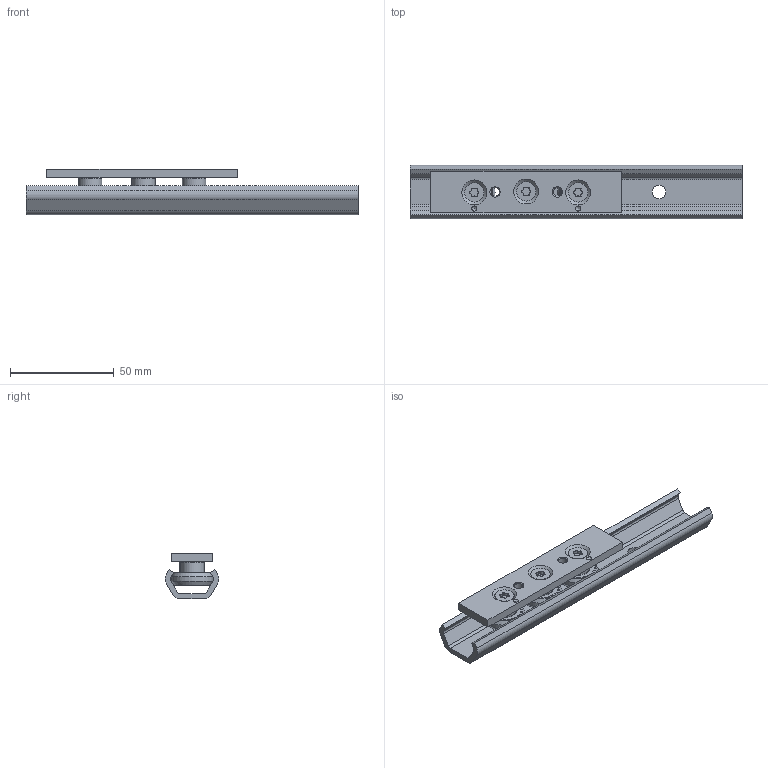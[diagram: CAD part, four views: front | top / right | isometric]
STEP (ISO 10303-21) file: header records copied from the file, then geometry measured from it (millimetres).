
FILE_DESCRIPTION( ( 'STEP AP214' ), '1' );
FILE_NAME( 'p:/temp/worker_300/temp/exporttempdir_2980_117_ro7HN/format_0/TEN26-0160-CEN26-92.stp', '2020-01-13T20:04:14', ( '' ), ( '' ), ' ', 'PARTsolutions', ' ' );
FILE_SCHEMA( ( 'AUTOMOTIVE_DESIGN { 1 0 10303 214 1 1 1 1 }' ) );
Length unit declared in the file: millimetre
Products named in the file (6): TEN26-0160-CEN26-92; _TEN 26-160; _CEN26-92_1; _RLN26(11.2_M5); _RLA26(11.2_M5); _LAN-26
Assembly tree (8 placements, depth 2):
  TEN26-0160-CEN26-92
    _TEN 26-160
    _CEN26-92_1
    _RLN26(11.2_M5)  x2
    _RLA26(11.2_M5)
    _LAN-26  x3
Bounding box: 160 x 26 x 22 mm (x, y, z)
Volume: 30277.4 mm3; surface area: 23780.8 mm2
Topology: 8 solids, 8 shells, 235 faces, 507 edges, 315 vertices
Faces by surface type: plane 131, cylinder 71, cone 24, bspline 9
Full cylindrical faces by diameter (mm): 2.5 x2, 4.134 x5, 4.5 x3, 5 x6, 6.5 x2, 9.3 x3, 11.2 x6, 11.6 x6, 15.7 x6, 16.7 x6
Entity records: 5342 total; most frequent: CARTESIAN_POINT 795, DIRECTION 724, ORIENTED_EDGE 542, AXIS2_PLACEMENT_3D 298, EDGE_CURVE 271, EDGE_LOOP 240, VERTEX_POINT 201, FACE_OUTER_BOUND 188
